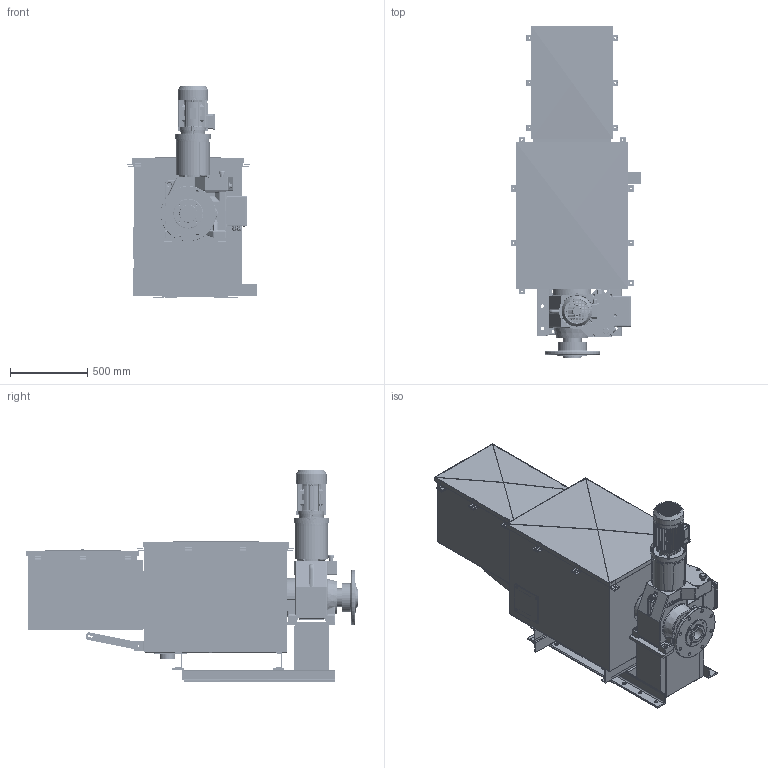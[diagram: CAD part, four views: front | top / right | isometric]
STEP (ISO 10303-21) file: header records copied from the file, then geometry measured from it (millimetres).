
FILE_DESCRIPTION(/* description */ (''),/* implementation_level */ '2;1');
FILE_NAME(/* name */ 'K:\NEMANJA\CABLE REEL\CABLE REEL DA\0700-6\07006002 DAPR-MCGBSR\STEP\76601 .stp',/* time_stamp */ '2017-03-16T11:53:49+01:00',/* author */ ('milman01'),/* organization */ ('Hillmar Industries Ltd.'),/* preprocessor_version */ 'ST-DEVELOPER v16.1',/* originating_system */ 'Autodesk Inventor 2016',/* authorisation */ '');
FILE_SCHEMA (('AUTOMOTIVE_DESIGN { 1 0 10303 214 3 1 1 }'));
Products named in the file (1): 76601 
Bounding box: 841.25 x 2141.67 x 1369.55 mm (x, y, z)
Volume: 44785313.1 mm3; surface area: 18160734.6 mm2
Topology: 20 solids, 20 shells, 6214 faces, 16751 edges, 10676 vertices
Faces by surface type: plane 3814, cylinder 1329, bspline 483, cone 326, torus 190, sphere 72
Full cylindrical faces by diameter (mm): 3 x4, 7 x4, 8 x12, 8.376 x5, 8.5 x5, 9 x16, 10 x21, 10.106 x15, 10.38 x2, 11 x30, 11.113 x2, 12 x14, 12.5 x6, 13 x4, 13.2 x2, 14 x22, 14.3 x8, 15 x6, 17.294 x4, 17.75 x1, 18 x2, 18.38 x4, 18.653 x1, 20 x4, 20.5 x4, 22 x22, 22.225 x1, 22.3 x4, 24 x4, 25 x6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
Entity records: 209397 total; most frequent: CARTESIAN_POINT 52402, ORIENTED_EDGE 31966, DIRECTION 29422, EDGE_CURVE 15959, VERTEX_POINT 10463, LINE 9970, VECTOR 9970, AXIS2_PLACEMENT_3D 9726
